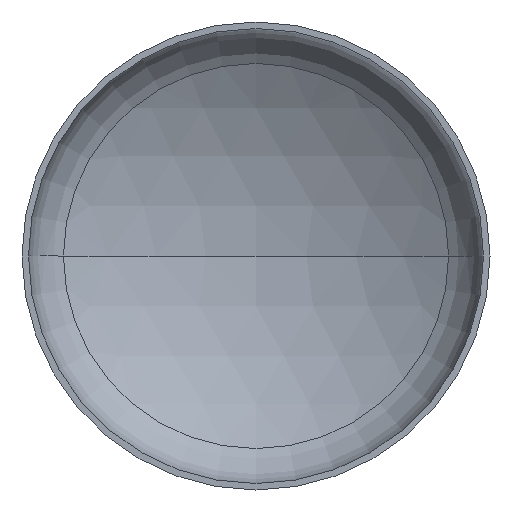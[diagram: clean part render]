
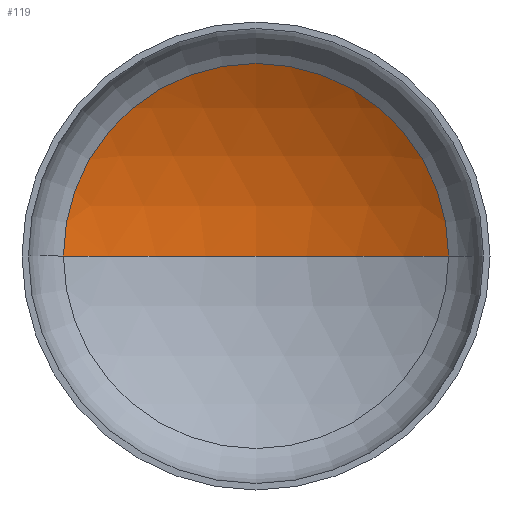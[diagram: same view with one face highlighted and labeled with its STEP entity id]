
A CAD part, front view. The second image highlights one B-rep face of the part: STEP entity #119.
In plain terms, the highlighted spherical face has radius 1040 mm.
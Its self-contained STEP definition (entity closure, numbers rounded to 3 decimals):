
#24 = AXIS2_PLACEMENT_3D ( 'NONE', #286, #371, #399 ) ;
#26 = AXIS2_PLACEMENT_3D ( 'NONE', #243, #405, #55 ) ;
#30 = AXIS2_PLACEMENT_3D ( 'NONE', #137, #195, #352 ) ;
#31 = AXIS2_PLACEMENT_3D ( 'NONE', #301, #170, #327 ) ;
#55 = DIRECTION ( 'NONE',  ( 1., 0., 0. ) ) ;
#66 = VERTEX_POINT ( 'NONE', #215 ) ;
#67 = VERTEX_POINT ( 'NONE', #161 ) ;
#83 = ORIENTED_EDGE ( 'NONE', *, *, #84, .T. ) ;
#84 = EDGE_CURVE ( 'NONE', #93, #66, #309, .T. ) ;
#85 = EDGE_CURVE ( 'NONE', #67, #93, #92, .T. ) ;
#89 = EDGE_CURVE ( 'NONE', #67, #66, #194, .T. ) ;
#92 = CIRCLE ( 'NONE', #30, 1040. ) ;
#93 = VERTEX_POINT ( 'NONE', #108 ) ;
#102 = EDGE_LOOP ( 'NONE', ( #150, #125, #83 ) ) ;
#108 = CARTESIAN_POINT ( 'NONE',  ( 534.857, 226.524, 0. ) ) ;
#119 = ADVANCED_FACE ( 'NONE', ( #299 ), #247, .F. ) ;
#125 = ORIENTED_EDGE ( 'NONE', *, *, #85, .T. ) ;
#137 = CARTESIAN_POINT ( 'NONE',  ( 0., -665.4, 0. ) ) ;
#150 = ORIENTED_EDGE ( 'NONE', *, *, #89, .F. ) ;
#161 = CARTESIAN_POINT ( 'NONE',  ( 0., 374.6, 0. ) ) ;
#170 = DIRECTION ( 'NONE',  ( 0., -1., 0. ) ) ;
#194 = CIRCLE ( 'NONE', #26, 1040. ) ;
#195 = DIRECTION ( 'NONE',  ( 0., 0., -1. ) ) ;
#215 = CARTESIAN_POINT ( 'NONE',  ( -534.857, 226.524, 0. ) ) ;
#243 = CARTESIAN_POINT ( 'NONE',  ( 0., -665.4, 0. ) ) ;
#247 = SPHERICAL_SURFACE ( 'NONE', #24, 1040. ) ;
#286 = CARTESIAN_POINT ( 'NONE',  ( 0., -665.4, 0. ) ) ;
#299 = FACE_OUTER_BOUND ( 'NONE', #102, .T. ) ;
#301 = CARTESIAN_POINT ( 'NONE',  ( 0., 226.524, 0. ) ) ;
#309 = CIRCLE ( 'NONE', #31, 534.857 ) ;
#327 = DIRECTION ( 'NONE',  ( 1., 0., 0. ) ) ;
#352 = DIRECTION ( 'NONE',  ( -1., 0., 0. ) ) ;
#371 = DIRECTION ( 'NONE',  ( 0., 0., -1. ) ) ;
#399 = DIRECTION ( 'NONE',  ( -1., 0., 0. ) ) ;
#405 = DIRECTION ( 'NONE',  ( 0., 0., 1. ) ) ;
